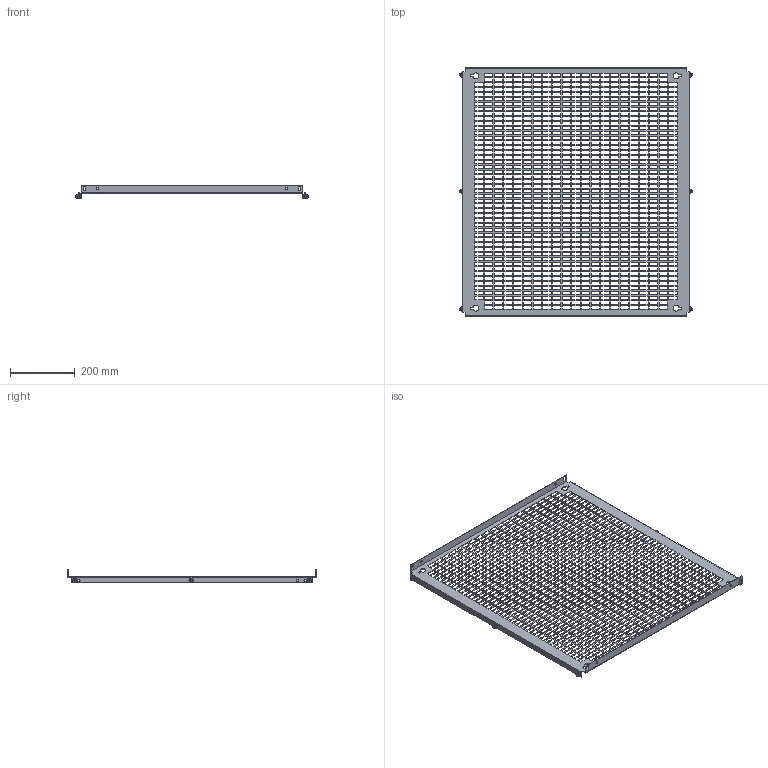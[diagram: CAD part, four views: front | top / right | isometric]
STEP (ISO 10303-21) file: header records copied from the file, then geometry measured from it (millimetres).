
FILE_DESCRIPTION(('Open CASCADE Model'),'2;1');
FILE_NAME('Open CASCADE Shape Model','2025-02-19T16:51:47',('Author'),( 'Open CASCADE'),'Open CASCADE STEP processor 7.8','Open CASCADE 7.8' ,'Unknown');
FILE_SCHEMA(('AUTOMOTIVE_DESIGN { 1 0 10303 214 1 1 1 1 }'));
Length unit declared in the file: millimetre
Products named in the file (4): Compound1; Solid1; Solid2; Solid3
Assembly tree (13 placements, depth 2):
  Compound1
    Solid1
    Solid2  x6
    Solid3  x6
Bounding box: 720 x 769 x 43 mm (x, y, z)
Volume: 612494.3 mm3; surface area: 770207.3 mm2
Topology: 13 solids, 13 shells, 4482 faces, 13190 edges, 8740 vertices
Faces by surface type: plane 4252, cone 102, bspline 72, cylinder 38, torus 18
Full cylindrical faces by diameter (mm): 5 x6, 6 x12, 7 x16
Entity records: 143764 total; most frequent: CARTESIAN_POINT 25867, ORIENTED_EDGE 25250, DIRECTION 21064, EDGE_CURVE 12625, LINE 12460, VECTOR 12460, VERTEX_POINT 8410, FACE_BOUND 6315
